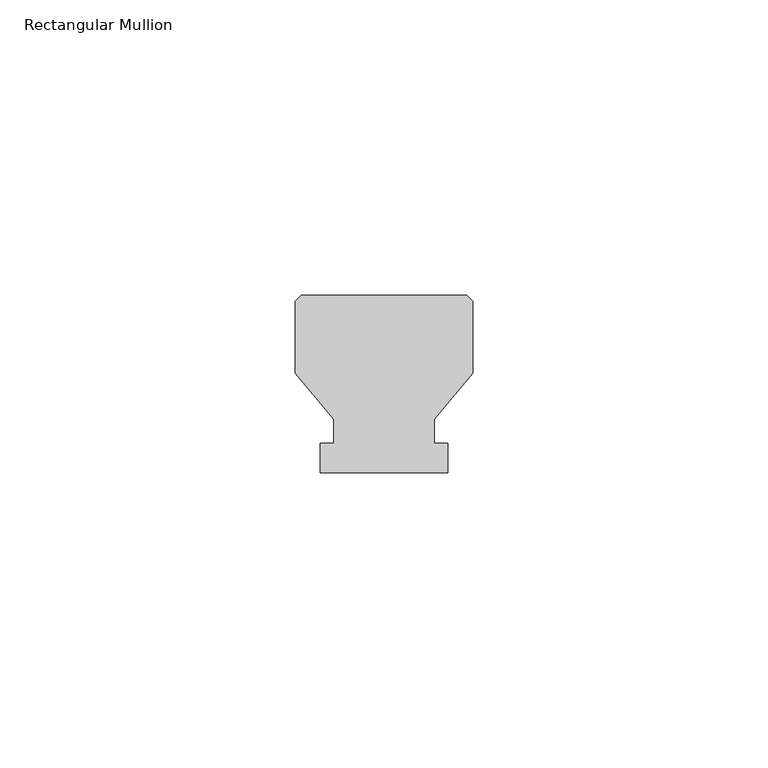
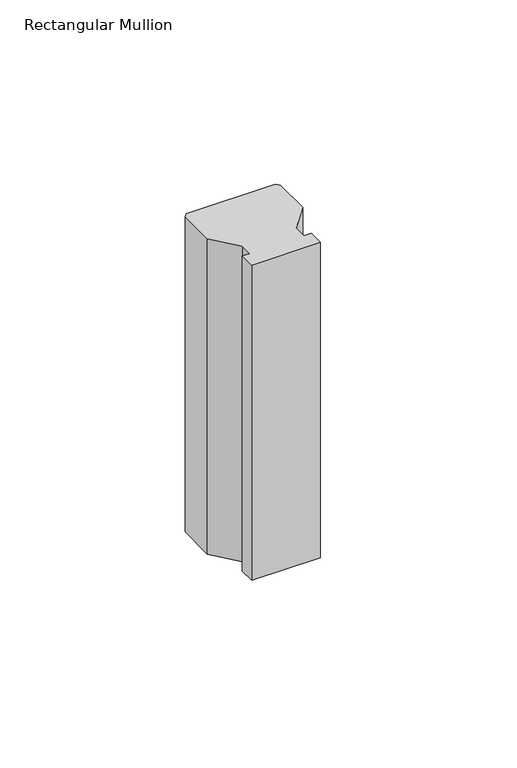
"""IFC4 building model written with IfcOpenShell, lengths in millimetres: member geometry, Rectangular Mullion : Batten_Timber_Modinex_Austratus_Grid_Fin_30x30_AlaskanYellowCedar."""

from ifc_helpers import new_model, si_unit, frame, origin, place, context, project, spatial, polyline, outline, extrude, source, transform, mapped, element, save


def rectangular_mullion_66d447bf(model_context):
    return source(origin(), model_context, "Body", "SweptSolid", [
        extrude(outline(polyline([(-30.0, 16.8079815), (-30.0, 29.0), (-29.0, 30.0), (-1.0, 30.0), (0.0, 29.0), (0.0, 16.8079815), (-6.5, 9.0), (-6.5, 5.0), (-4.187805, 5.0), (-4.187805, 0.0), (-25.812195, 0.0), (-25.812195, 5.0), (-23.5, 5.0), (-23.5, 9.0), (-30.0, 16.8079815)])), frame((0.0, 0.0, -104.9999997), z_axis=(0.0, 0.0, 1.0), x_axis=(1.0, 0.0, 0.0)), (0.0, 0.0, 1.0), 104.9999997),
    ])


if __name__ == "__main__":
    model = new_model("IFC4")
    model_context = context("Model", 3, world=origin())
    ifc_project = project(units=[si_unit("LENGTHUNIT", "METRE", prefix="MILLI")], contexts=[model_context])
    site = spatial("IfcSite", under=ifc_project)
    building = spatial("IfcBuilding", under=site)
    placement = place(None, origin())
    rectangular_mullion_shape = rectangular_mullion_66d447bf(model_context)
    element("IfcMember", 1, ObjectType="Rectangular Mullion : Batten_Timber_Modinex_Austratus_Grid_Fin_30x30_AlaskanYellowCedar", at=placement, inside=building, context=model_context, shape_type="MappedRepresentation", body=[
        mapped(rectangular_mullion_shape, transform((0.0, 0.0, 0.0), x_axis=(1.0, 0.0, 0.0), y_axis=(0.0, 1.0, 0.0), z_axis=(0.0, 0.0, 1.0))),
    ])
    save(model, "model.ifc")
